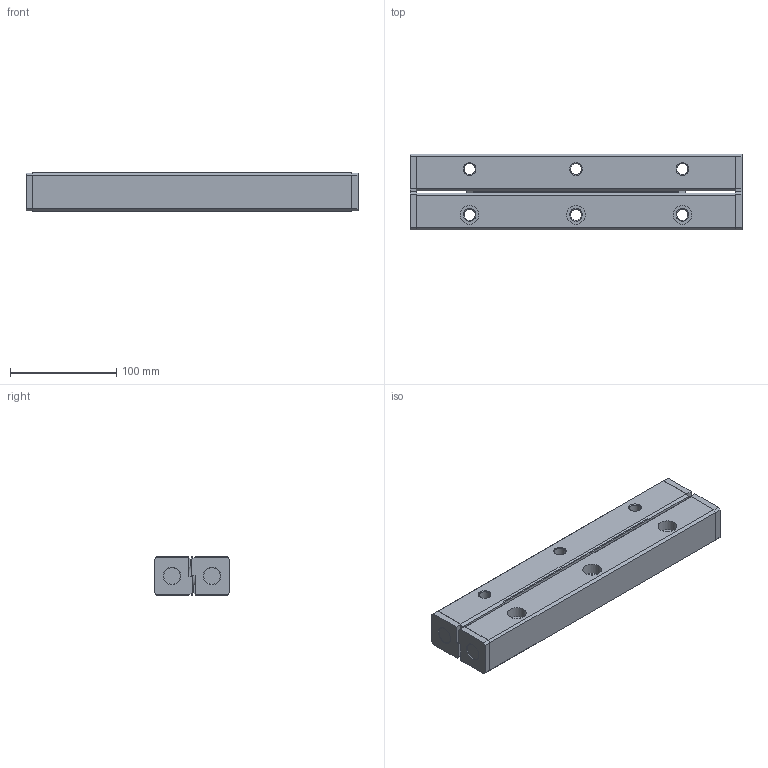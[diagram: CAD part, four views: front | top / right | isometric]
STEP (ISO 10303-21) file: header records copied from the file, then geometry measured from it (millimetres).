
FILE_DESCRIPTION(/* description */ ('STEP AP214'),/* implementation_level */ '2;1');
FILE_NAME(/* name */ 'VR15-300HX8Z(0)',/* time_stamp */ '2024-09-19T10:01:03+02:00',/* author */ ('License CC BY-ND 4.0'),/* organization */ ('CADENAS'),/* preprocessor_version */ 'ST-DEVELOPER v19.3',/* originating_system */ 'PARTsolutions',/* authorisation */ ' ');
FILE_SCHEMA (('AUTOMOTIVE_DESIGN {1 0 10303 214 3 1 1}'));
Length unit declared in the file: millimetre
Products named in the file (4): VR15-300HX8Z(0); VR15-300*8Z Roller guide; VR15-300*8Z Roller cage; VR15-300*8Z Roller guide; Top
Assembly tree (3 placements, depth 2):
  VR15-300HX8Z(0)
    VR15-300*8Z Roller guide
    VR15-300*8Z Roller cage
    VR15-300*8Z Roller guide; Top
Bounding box: 312 x 71 x 36 mm (x, y, z)
Volume: 709684.9 mm3; surface area: 120822.6 mm2
Topology: 3 solids, 3 shells, 214 faces, 550 edges, 352 vertices
Faces by surface type: plane 162, cone 32, cylinder 20
Full cylindrical faces by diameter (mm): 10.5 x6, 15 x8, 17.5 x6
Entity records: 6339 total; most frequent: CARTESIAN_POINT 1068, DIRECTION 1042, ORIENTED_EDGE 996, EDGE_CURVE 498, LINE 390, VECTOR 390, VERTEX_POINT 352, AXIS2_PLACEMENT_3D 326
